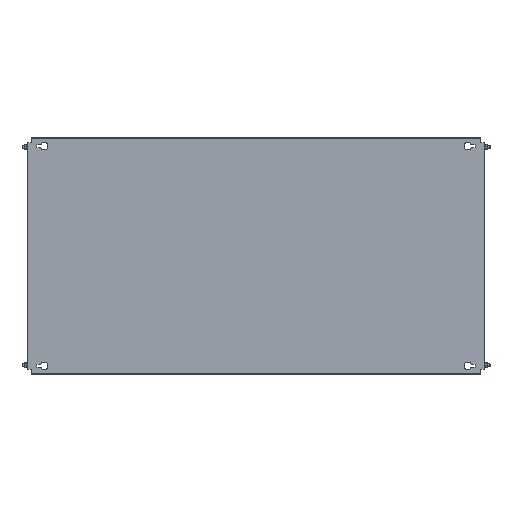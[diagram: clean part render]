
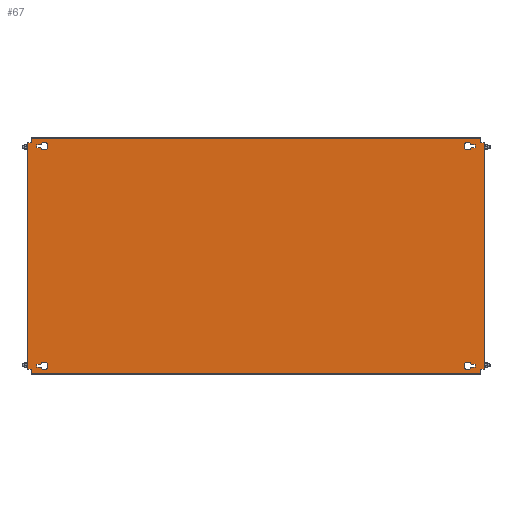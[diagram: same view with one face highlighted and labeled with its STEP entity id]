
A CAD part, top view. The second image highlights one B-rep face of the part: STEP entity #67.
In plain terms, the highlighted planar face has unit normal (0, 0, 1).
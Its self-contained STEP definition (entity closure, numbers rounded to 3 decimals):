
#67 = ADVANCED_FACE('',(#68,#103,#138,#300,#335),#370,.T.);
#68 = FACE_BOUND('',#69,.T.);
#69 = EDGE_LOOP('',(#70,#80,#88,#96));
#70 = ORIENTED_EDGE('',*,*,#71,.T.);
#71 = EDGE_CURVE('',#72,#74,#76,.T.);
#72 = VERTEX_POINT('',#73);
#73 = CARTESIAN_POINT('',(518.393,267.75,2.5));
#74 = VERTEX_POINT('',#75);
#75 = CARTESIAN_POINT('',(528.,267.75,2.5));
#76 = LINE('',#77,#78);
#77 = CARTESIAN_POINT('',(527.,267.75,2.5));
#78 = VECTOR('',#79,1.);
#79 = DIRECTION('',(1.,0.,0.));
#80 = ORIENTED_EDGE('',*,*,#81,.T.);
#81 = EDGE_CURVE('',#74,#82,#84,.T.);
#82 = VERTEX_POINT('',#83);
#83 = CARTESIAN_POINT('',(528.,261.25,2.5));
#84 = LINE('',#85,#86);
#85 = CARTESIAN_POINT('',(528.,267.75,2.5));
#86 = VECTOR('',#87,1.);
#87 = DIRECTION('',(0.,-1.,0.));
#88 = ORIENTED_EDGE('',*,*,#89,.T.);
#89 = EDGE_CURVE('',#82,#90,#92,.T.);
#90 = VERTEX_POINT('',#91);
#91 = CARTESIAN_POINT('',(518.393,261.25,2.5));
#92 = LINE('',#93,#94);
#93 = CARTESIAN_POINT('',(527.,261.25,2.5));
#94 = VECTOR('',#95,1.);
#95 = DIRECTION('',(-1.,0.,0.));
#96 = ORIENTED_EDGE('',*,*,#97,.T.);
#97 = EDGE_CURVE('',#90,#72,#98,.T.);
#98 = CIRCLE('',#99,9.);
#99 = AXIS2_PLACEMENT_3D('',#100,#101,#102);
#100 = CARTESIAN_POINT('',(510.,264.5,2.5));
#101 = DIRECTION('',(0.,0.,-1.));
#102 = DIRECTION('',(1.,0.,0.));
#103 = FACE_BOUND('',#104,.T.);
#104 = EDGE_LOOP('',(#105,#115,#123,#131));
#105 = ORIENTED_EDGE('',*,*,#106,.T.);
#106 = EDGE_CURVE('',#107,#109,#111,.T.);
#107 = VERTEX_POINT('',#108);
#108 = CARTESIAN_POINT('',(-518.393,-267.75,2.5));
#109 = VERTEX_POINT('',#110);
#110 = CARTESIAN_POINT('',(-528.,-267.75,2.5));
#111 = LINE('',#112,#113);
#112 = CARTESIAN_POINT('',(-527.,-267.75,2.5));
#113 = VECTOR('',#114,1.);
#114 = DIRECTION('',(-1.,0.,0.));
#115 = ORIENTED_EDGE('',*,*,#116,.T.);
#116 = EDGE_CURVE('',#109,#117,#119,.T.);
#117 = VERTEX_POINT('',#118);
#118 = CARTESIAN_POINT('',(-528.,-261.25,2.5));
#119 = LINE('',#120,#121);
#120 = CARTESIAN_POINT('',(-528.,-267.75,2.5));
#121 = VECTOR('',#122,1.);
#122 = DIRECTION('',(0.,1.,0.));
#123 = ORIENTED_EDGE('',*,*,#124,.T.);
#124 = EDGE_CURVE('',#117,#125,#127,.T.);
#125 = VERTEX_POINT('',#126);
#126 = CARTESIAN_POINT('',(-518.393,-261.25,2.5));
#127 = LINE('',#128,#129);
#128 = CARTESIAN_POINT('',(-527.,-261.25,2.5));
#129 = VECTOR('',#130,1.);
#130 = DIRECTION('',(1.,-0.,-0.));
#131 = ORIENTED_EDGE('',*,*,#132,.T.);
#132 = EDGE_CURVE('',#125,#107,#133,.T.);
#133 = CIRCLE('',#134,9.);
#134 = AXIS2_PLACEMENT_3D('',#135,#136,#137);
#135 = CARTESIAN_POINT('',(-510.,-264.5,2.5));
#136 = DIRECTION('',(0.,0.,-1.));
#137 = DIRECTION('',(-1.,0.,0.));
#138 = FACE_BOUND('',#139,.T.);
#139 = EDGE_LOOP('',(#140,#150,#158,#166,#174,#182,#190,#198,#206,#214,
    #222,#230,#238,#246,#254,#262,#270,#278,#286,#294));
#140 = ORIENTED_EDGE('',*,*,#141,.F.);
#141 = EDGE_CURVE('',#142,#144,#146,.T.);
#142 = VERTEX_POINT('',#143);
#143 = CARTESIAN_POINT('',(-546.9,272.5,2.5));
#144 = VERTEX_POINT('',#145);
#145 = CARTESIAN_POINT('',(-541.5,272.5,2.5));
#146 = LINE('',#147,#148);
#147 = CARTESIAN_POINT('',(-547.5,272.5,2.5));
#148 = VECTOR('',#149,1.);
#149 = DIRECTION('',(1.,0.,-0.));
#150 = ORIENTED_EDGE('',*,*,#151,.T.);
#151 = EDGE_CURVE('',#142,#152,#154,.T.);
#152 = VERTEX_POINT('',#153);
#153 = CARTESIAN_POINT('',(-550.,272.5,2.5));
#154 = LINE('',#155,#156);
#155 = CARTESIAN_POINT('',(-546.9,272.5,2.5));
#156 = VECTOR('',#157,1.);
#157 = DIRECTION('',(-1.,0.,0.));
#158 = ORIENTED_EDGE('',*,*,#159,.F.);
#159 = EDGE_CURVE('',#160,#152,#162,.T.);
#160 = VERTEX_POINT('',#161);
#161 = CARTESIAN_POINT('',(-550.,-272.5,2.5));
#162 = LINE('',#163,#164);
#163 = CARTESIAN_POINT('',(-550.,-282.,2.5));
#164 = VECTOR('',#165,1.);
#165 = DIRECTION('',(-0.,1.,-0.));
#166 = ORIENTED_EDGE('',*,*,#167,.F.);
#167 = EDGE_CURVE('',#168,#160,#170,.T.);
#168 = VERTEX_POINT('',#169);
#169 = CARTESIAN_POINT('',(-546.9,-272.5,2.5));
#170 = LINE('',#171,#172);
#171 = CARTESIAN_POINT('',(-541.5,-272.5,2.5));
#172 = VECTOR('',#173,1.);
#173 = DIRECTION('',(-1.,-0.,-0.));
#174 = ORIENTED_EDGE('',*,*,#175,.T.);
#175 = EDGE_CURVE('',#168,#176,#178,.T.);
#176 = VERTEX_POINT('',#177);
#177 = CARTESIAN_POINT('',(-541.5,-272.5,2.5));
#178 = LINE('',#179,#180);
#179 = CARTESIAN_POINT('',(-547.5,-272.5,2.5));
#180 = VECTOR('',#181,1.);
#181 = DIRECTION('',(1.,0.,-0.));
#182 = ORIENTED_EDGE('',*,*,#183,.T.);
#183 = EDGE_CURVE('',#176,#184,#186,.T.);
#184 = VERTEX_POINT('',#185);
#185 = CARTESIAN_POINT('',(-541.5,-281.4,2.5));
#186 = LINE('',#187,#188);
#187 = CARTESIAN_POINT('',(-541.5,282.,2.5));
#188 = VECTOR('',#189,1.);
#189 = DIRECTION('',(0.,-1.,0.));
#190 = ORIENTED_EDGE('',*,*,#191,.T.);
#191 = EDGE_CURVE('',#184,#192,#194,.T.);
#192 = VERTEX_POINT('',#193);
#193 = CARTESIAN_POINT('',(-541.5,-282.,2.5));
#194 = LINE('',#195,#196);
#195 = CARTESIAN_POINT('',(-541.5,-281.4,2.5));
#196 = VECTOR('',#197,1.);
#197 = DIRECTION('',(-0.,-1.,-0.));
#198 = ORIENTED_EDGE('',*,*,#199,.T.);
#199 = EDGE_CURVE('',#192,#200,#202,.T.);
#200 = VERTEX_POINT('',#201);
#201 = CARTESIAN_POINT('',(541.5,-282.,2.5));
#202 = LINE('',#203,#204);
#203 = CARTESIAN_POINT('',(541.5,-282.,2.5));
#204 = VECTOR('',#205,1.);
#205 = DIRECTION('',(1.,0.,0.));
#206 = ORIENTED_EDGE('',*,*,#207,.F.);
#207 = EDGE_CURVE('',#208,#200,#210,.T.);
#208 = VERTEX_POINT('',#209);
#209 = CARTESIAN_POINT('',(541.5,-281.4,2.5));
#210 = LINE('',#211,#212);
#211 = CARTESIAN_POINT('',(541.5,-282.,2.5));
#212 = VECTOR('',#213,1.);
#213 = DIRECTION('',(0.,-1.,0.));
#214 = ORIENTED_EDGE('',*,*,#215,.T.);
#215 = EDGE_CURVE('',#208,#216,#218,.T.);
#216 = VERTEX_POINT('',#217);
#217 = CARTESIAN_POINT('',(541.5,-272.5,2.5));
#218 = LINE('',#219,#220);
#219 = CARTESIAN_POINT('',(541.5,282.,2.5));
#220 = VECTOR('',#221,1.);
#221 = DIRECTION('',(0.,1.,-0.));
#222 = ORIENTED_EDGE('',*,*,#223,.F.);
#223 = EDGE_CURVE('',#224,#216,#226,.T.);
#224 = VERTEX_POINT('',#225);
#225 = CARTESIAN_POINT('',(546.9,-272.5,2.5));
#226 = LINE('',#227,#228);
#227 = CARTESIAN_POINT('',(547.5,-272.5,2.5));
#228 = VECTOR('',#229,1.);
#229 = DIRECTION('',(-1.,0.,-0.));
#230 = ORIENTED_EDGE('',*,*,#231,.T.);
#231 = EDGE_CURVE('',#224,#232,#234,.T.);
#232 = VERTEX_POINT('',#233);
#233 = CARTESIAN_POINT('',(550.,-272.5,2.5));
#234 = LINE('',#235,#236);
#235 = CARTESIAN_POINT('',(546.9,-272.5,2.5));
#236 = VECTOR('',#237,1.);
#237 = DIRECTION('',(1.,-0.,0.));
#238 = ORIENTED_EDGE('',*,*,#239,.F.);
#239 = EDGE_CURVE('',#240,#232,#242,.T.);
#240 = VERTEX_POINT('',#241);
#241 = CARTESIAN_POINT('',(550.,272.5,2.5));
#242 = LINE('',#243,#244);
#243 = CARTESIAN_POINT('',(550.,-282.,2.5));
#244 = VECTOR('',#245,1.);
#245 = DIRECTION('',(-0.,-1.,0.));
#246 = ORIENTED_EDGE('',*,*,#247,.F.);
#247 = EDGE_CURVE('',#248,#240,#250,.T.);
#248 = VERTEX_POINT('',#249);
#249 = CARTESIAN_POINT('',(546.9,272.5,2.5));
#250 = LINE('',#251,#252);
#251 = CARTESIAN_POINT('',(-541.5,272.5,2.5));
#252 = VECTOR('',#253,1.);
#253 = DIRECTION('',(1.,-0.,0.));
#254 = ORIENTED_EDGE('',*,*,#255,.T.);
#255 = EDGE_CURVE('',#248,#256,#258,.T.);
#256 = VERTEX_POINT('',#257);
#257 = CARTESIAN_POINT('',(541.5,272.5,2.5));
#258 = LINE('',#259,#260);
#259 = CARTESIAN_POINT('',(547.5,272.5,2.5));
#260 = VECTOR('',#261,1.);
#261 = DIRECTION('',(-1.,0.,-0.));
#262 = ORIENTED_EDGE('',*,*,#263,.T.);
#263 = EDGE_CURVE('',#256,#264,#266,.T.);
#264 = VERTEX_POINT('',#265);
#265 = CARTESIAN_POINT('',(541.5,281.4,2.5));
#266 = LINE('',#267,#268);
#267 = CARTESIAN_POINT('',(541.5,282.,2.5));
#268 = VECTOR('',#269,1.);
#269 = DIRECTION('',(0.,1.,-0.));
#270 = ORIENTED_EDGE('',*,*,#271,.T.);
#271 = EDGE_CURVE('',#264,#272,#274,.T.);
#272 = VERTEX_POINT('',#273);
#273 = CARTESIAN_POINT('',(541.5,282.,2.5));
#274 = LINE('',#275,#276);
#275 = CARTESIAN_POINT('',(541.5,281.4,2.5));
#276 = VECTOR('',#277,1.);
#277 = DIRECTION('',(-0.,1.,-0.));
#278 = ORIENTED_EDGE('',*,*,#279,.T.);
#279 = EDGE_CURVE('',#272,#280,#282,.T.);
#280 = VERTEX_POINT('',#281);
#281 = CARTESIAN_POINT('',(-541.5,282.,2.5));
#282 = LINE('',#283,#284);
#283 = CARTESIAN_POINT('',(-541.5,282.,2.5));
#284 = VECTOR('',#285,1.);
#285 = DIRECTION('',(-1.,0.,0.));
#286 = ORIENTED_EDGE('',*,*,#287,.F.);
#287 = EDGE_CURVE('',#288,#280,#290,.T.);
#288 = VERTEX_POINT('',#289);
#289 = CARTESIAN_POINT('',(-541.5,281.4,2.5));
#290 = LINE('',#291,#292);
#291 = CARTESIAN_POINT('',(-541.5,-282.,2.5));
#292 = VECTOR('',#293,1.);
#293 = DIRECTION('',(0.,1.,-0.));
#294 = ORIENTED_EDGE('',*,*,#295,.T.);
#295 = EDGE_CURVE('',#288,#144,#296,.T.);
#296 = LINE('',#297,#298);
#297 = CARTESIAN_POINT('',(-541.5,282.,2.5));
#298 = VECTOR('',#299,1.);
#299 = DIRECTION('',(0.,-1.,0.));
#300 = FACE_BOUND('',#301,.T.);
#301 = EDGE_LOOP('',(#302,#312,#320,#328));
#302 = ORIENTED_EDGE('',*,*,#303,.F.);
#303 = EDGE_CURVE('',#304,#306,#308,.T.);
#304 = VERTEX_POINT('',#305);
#305 = CARTESIAN_POINT('',(528.,-261.25,2.5));
#306 = VERTEX_POINT('',#307);
#307 = CARTESIAN_POINT('',(518.393,-261.25,2.5));
#308 = LINE('',#309,#310);
#309 = CARTESIAN_POINT('',(518.393,-261.25,2.5));
#310 = VECTOR('',#311,1.);
#311 = DIRECTION('',(-1.,0.,0.));
#312 = ORIENTED_EDGE('',*,*,#313,.F.);
#313 = EDGE_CURVE('',#314,#304,#316,.T.);
#314 = VERTEX_POINT('',#315);
#315 = CARTESIAN_POINT('',(528.,-267.75,2.5));
#316 = LINE('',#317,#318);
#317 = CARTESIAN_POINT('',(528.,-261.25,2.5));
#318 = VECTOR('',#319,1.);
#319 = DIRECTION('',(0.,1.,0.));
#320 = ORIENTED_EDGE('',*,*,#321,.F.);
#321 = EDGE_CURVE('',#322,#314,#324,.T.);
#322 = VERTEX_POINT('',#323);
#323 = CARTESIAN_POINT('',(518.393,-267.75,2.5));
#324 = LINE('',#325,#326);
#325 = CARTESIAN_POINT('',(527.,-267.75,2.5));
#326 = VECTOR('',#327,1.);
#327 = DIRECTION('',(1.,0.,0.));
#328 = ORIENTED_EDGE('',*,*,#329,.F.);
#329 = EDGE_CURVE('',#306,#322,#330,.T.);
#330 = CIRCLE('',#331,9.);
#331 = AXIS2_PLACEMENT_3D('',#332,#333,#334);
#332 = CARTESIAN_POINT('',(510.,-264.5,2.5));
#333 = DIRECTION('',(0.,-0.,1.));
#334 = DIRECTION('',(1.,0.,0.));
#335 = FACE_BOUND('',#336,.T.);
#336 = EDGE_LOOP('',(#337,#347,#355,#363));
#337 = ORIENTED_EDGE('',*,*,#338,.F.);
#338 = EDGE_CURVE('',#339,#341,#343,.T.);
#339 = VERTEX_POINT('',#340);
#340 = CARTESIAN_POINT('',(-528.,261.25,2.5));
#341 = VERTEX_POINT('',#342);
#342 = CARTESIAN_POINT('',(-518.393,261.25,2.5));
#343 = LINE('',#344,#345);
#344 = CARTESIAN_POINT('',(-518.393,261.25,2.5));
#345 = VECTOR('',#346,1.);
#346 = DIRECTION('',(1.,0.,0.));
#347 = ORIENTED_EDGE('',*,*,#348,.F.);
#348 = EDGE_CURVE('',#349,#339,#351,.T.);
#349 = VERTEX_POINT('',#350);
#350 = CARTESIAN_POINT('',(-528.,267.75,2.5));
#351 = LINE('',#352,#353);
#352 = CARTESIAN_POINT('',(-528.,261.25,2.5));
#353 = VECTOR('',#354,1.);
#354 = DIRECTION('',(0.,-1.,0.));
#355 = ORIENTED_EDGE('',*,*,#356,.F.);
#356 = EDGE_CURVE('',#357,#349,#359,.T.);
#357 = VERTEX_POINT('',#358);
#358 = CARTESIAN_POINT('',(-518.393,267.75,2.5));
#359 = LINE('',#360,#361);
#360 = CARTESIAN_POINT('',(-527.,267.75,2.5));
#361 = VECTOR('',#362,1.);
#362 = DIRECTION('',(-1.,0.,0.));
#363 = ORIENTED_EDGE('',*,*,#364,.F.);
#364 = EDGE_CURVE('',#341,#357,#365,.T.);
#365 = CIRCLE('',#366,9.);
#366 = AXIS2_PLACEMENT_3D('',#367,#368,#369);
#367 = CARTESIAN_POINT('',(-510.,264.5,2.5));
#368 = DIRECTION('',(0.,-0.,1.));
#369 = DIRECTION('',(-1.,0.,0.));
#370 = PLANE('',#371);
#371 = AXIS2_PLACEMENT_3D('',#372,#373,#374);
#372 = CARTESIAN_POINT('',(-541.5,-282.,2.5));
#373 = DIRECTION('',(-0.,0.,1.));
#374 = DIRECTION('',(1.,0.,0.));
